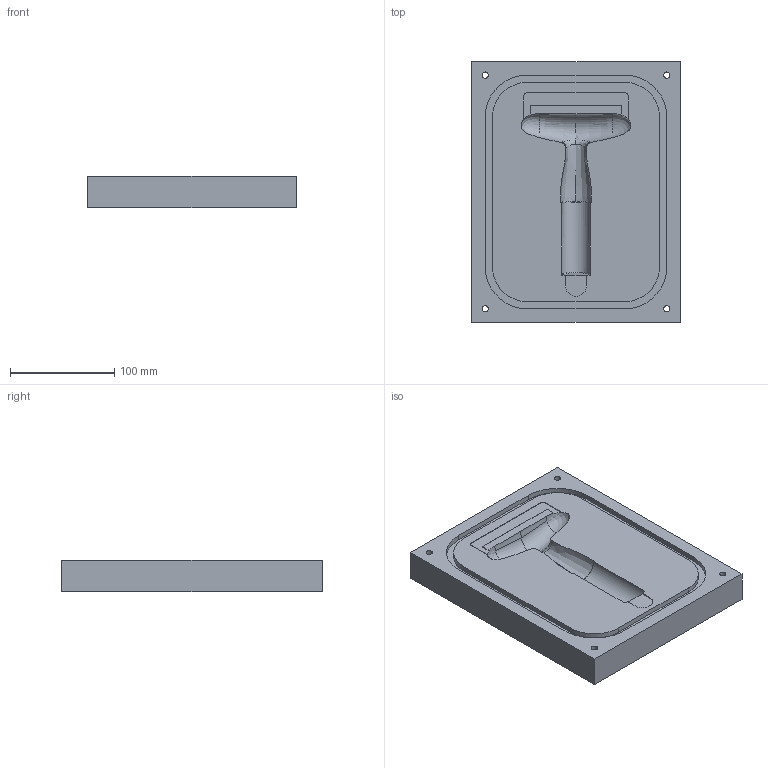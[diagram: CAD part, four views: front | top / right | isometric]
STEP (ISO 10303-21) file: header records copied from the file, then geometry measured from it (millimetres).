
FILE_DESCRIPTION (( 'STEP AP214' ), '1' );
FILE_NAME ('Moule alu inferieur V2.STEP', '2016-07-01T13:14:39', ( '' ), ( '' ), 'SwSTEP 2.0', 'SolidWorks 2014', '' );
FILE_SCHEMA (( 'AUTOMOTIVE_DESIGN' ));
Length unit declared in the file: millimetre
Products named in the file (1): Moule alu inferieur V2
Bounding box: 200 x 250 x 30 mm (x, y, z)
Volume: 1404192.3 mm3; surface area: 140433.2 mm2
Topology: 1 solids, 1 shells, 63 faces, 175 edges, 117 vertices
Faces by surface type: plane 29, cylinder 20, bspline 14
Entity records: 11986 total; most frequent: CARTESIAN_POINT 10394, ORIENTED_EDGE 350, DIRECTION 286, EDGE_CURVE 175, VERTEX_POINT 117, AXIS2_PLACEMENT_3D 99, VECTOR 88, LINE 88
